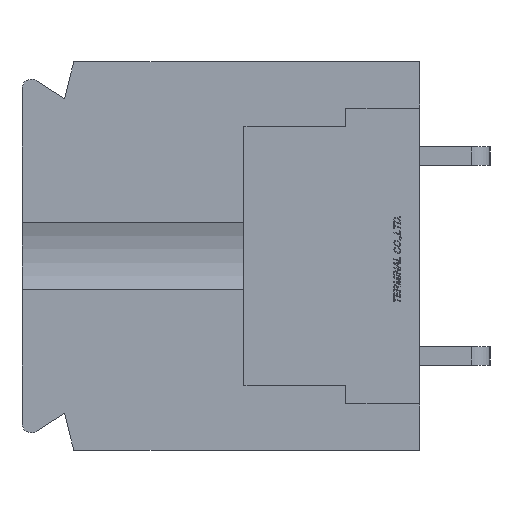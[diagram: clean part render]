
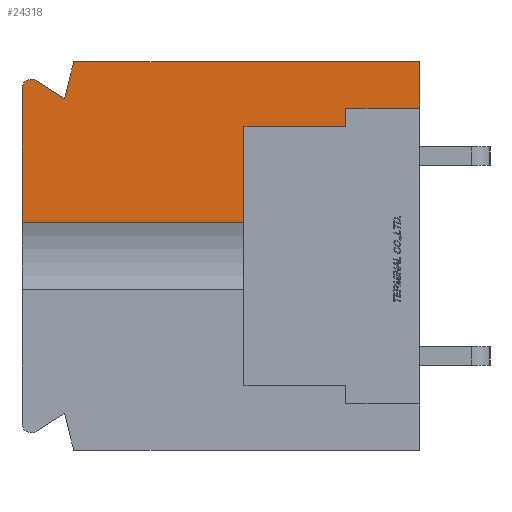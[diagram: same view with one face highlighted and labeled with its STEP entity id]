
A CAD part, left-side view. The second image highlights one B-rep face of the part: STEP entity #24318.
In plain terms, the highlighted planar face has unit normal (-1, 0, 0).
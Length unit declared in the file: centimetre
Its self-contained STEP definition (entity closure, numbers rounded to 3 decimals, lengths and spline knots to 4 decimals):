
#570=CIRCLE('',#41088,0.05);
#1201=VECTOR('',#26972,1.);
#1202=VECTOR('',#26973,1.);
#1203=VECTOR('',#26974,1.);
#1204=VECTOR('',#26975,1.);
#1205=VECTOR('',#26976,1.);
#1206=VECTOR('',#26977,1.);
#1207=VECTOR('',#26978,1.);
#1208=VECTOR('',#26979,1.);
#1209=VECTOR('',#26982,1.);
#1210=VECTOR('',#26983,1.);
#4128=LINE('',#32485,#1201);
#4129=LINE('',#32488,#1202);
#4130=LINE('',#32490,#1203);
#4131=LINE('',#32492,#1204);
#4132=LINE('',#32494,#1205);
#4133=LINE('',#32496,#1206);
#4134=LINE('',#32498,#1207);
#4135=LINE('',#32500,#1208);
#4136=LINE('',#32504,#1209);
#4137=LINE('',#32506,#1210);
#7068=VERTEX_POINT('',#32486);
#7069=VERTEX_POINT('',#32487);
#7070=VERTEX_POINT('',#32489);
#7071=VERTEX_POINT('',#32491);
#7072=VERTEX_POINT('',#32493);
#7073=VERTEX_POINT('',#32495);
#7074=VERTEX_POINT('',#32497);
#7075=VERTEX_POINT('',#32499);
#7076=VERTEX_POINT('',#32501);
#7077=VERTEX_POINT('',#32503);
#7078=VERTEX_POINT('',#32505);
#9795=EDGE_CURVE('',#7068,#7069,#4128,.T.);
#9796=EDGE_CURVE('',#7070,#7068,#4129,.T.);
#9797=EDGE_CURVE('',#7071,#7070,#4130,.T.);
#9798=EDGE_CURVE('',#7072,#7071,#4131,.T.);
#9799=EDGE_CURVE('',#7073,#7072,#4132,.T.);
#9800=EDGE_CURVE('',#7074,#7073,#4133,.T.);
#9801=EDGE_CURVE('',#7075,#7074,#4134,.T.);
#9802=EDGE_CURVE('',#7076,#7075,#4135,.T.);
#9803=EDGE_CURVE('',#7077,#7076,#570,.T.);
#9804=EDGE_CURVE('',#7078,#7077,#4136,.T.);
#9805=EDGE_CURVE('',#7078,#7069,#4137,.T.);
#13715=ORIENTED_EDGE('',*,*,#9795,.F.);
#13716=ORIENTED_EDGE('',*,*,#9796,.F.);
#13717=ORIENTED_EDGE('',*,*,#9797,.F.);
#13718=ORIENTED_EDGE('',*,*,#9798,.F.);
#13719=ORIENTED_EDGE('',*,*,#9799,.F.);
#13720=ORIENTED_EDGE('',*,*,#9800,.F.);
#13721=ORIENTED_EDGE('',*,*,#9801,.F.);
#13722=ORIENTED_EDGE('',*,*,#9802,.F.);
#13723=ORIENTED_EDGE('',*,*,#9803,.F.);
#13724=ORIENTED_EDGE('',*,*,#9804,.F.);
#13725=ORIENTED_EDGE('',*,*,#9805,.T.);
#21172=EDGE_LOOP('',(#13715,#13716,#13717,#13718,#13719,#13720,#13721,#13722,
#13723,#13724,#13725));
#22750=FACE_BOUND('',#21172,.T.);
#24318=ADVANCED_FACE('',(#22750),#25725,.F.);
#25725=PLANE('',#41087);
#26971=DIRECTION('',(1.,0.,0.));
#26972=DIRECTION('',(0.,0.,-1.));
#26973=DIRECTION('',(0.,1.,0.));
#26974=DIRECTION('',(0.,0.,-1.));
#26975=DIRECTION('',(0.,1.,0.));
#26976=DIRECTION('',(0.,0.,-1.));
#26977=DIRECTION('',(0.,-1.,0.));
#26978=DIRECTION('',(0.,-0.243,0.97));
#26979=DIRECTION('',(0.,-0.844,-0.536));
#26980=DIRECTION('',(1.,0.,0.));
#26981=DIRECTION('',(0.,0.,-0.05));
#26982=DIRECTION('',(0.,0.,1.));
#26983=DIRECTION('',(0.,-1.,0.));
#32484=CARTESIAN_POINT('',(-1.1,1.082,0.));
#32485=CARTESIAN_POINT('',(-1.1,0.95,-0.7));
#32486=CARTESIAN_POINT('',(-1.1,0.95,0.7));
#32487=CARTESIAN_POINT('',(-1.1,0.95,0.1809));
#32488=CARTESIAN_POINT('',(-1.1,0.95,0.7));
#32489=CARTESIAN_POINT('',(-1.1,0.4,0.7));
#32490=CARTESIAN_POINT('',(-1.1,0.4,0.7));
#32491=CARTESIAN_POINT('',(-1.1,0.4,0.8));
#32492=CARTESIAN_POINT('',(-1.1,0.4,0.8));
#32493=CARTESIAN_POINT('',(-1.1,0.,0.8));
#32494=CARTESIAN_POINT('',(-1.1,0.,1.05));
#32495=CARTESIAN_POINT('',(-1.1,0.,1.05));
#32496=CARTESIAN_POINT('',(-1.1,1.87,1.05));
#32497=CARTESIAN_POINT('',(-1.1,1.87,1.05));
#32498=CARTESIAN_POINT('',(-1.1,1.92,0.85));
#32499=CARTESIAN_POINT('',(-1.1,1.92,0.85));
#32500=CARTESIAN_POINT('',(-1.1,2.0742,0.9478));
#32501=CARTESIAN_POINT('',(-1.1,2.0742,0.9478));
#32502=CARTESIAN_POINT('',(-1.1,2.1,0.905));
#32503=CARTESIAN_POINT('',(-1.1,2.15,0.905));
#32504=CARTESIAN_POINT('',(-1.1,2.15,-0.905));
#32505=CARTESIAN_POINT('',(-1.1,2.15,0.1809));
#32506=CARTESIAN_POINT('',(-1.1,1.55,0.1809));
#41087=AXIS2_PLACEMENT_3D('',#32484,#26971,$);
#41088=AXIS2_PLACEMENT_3D('',#32502,#26980,#26981);
